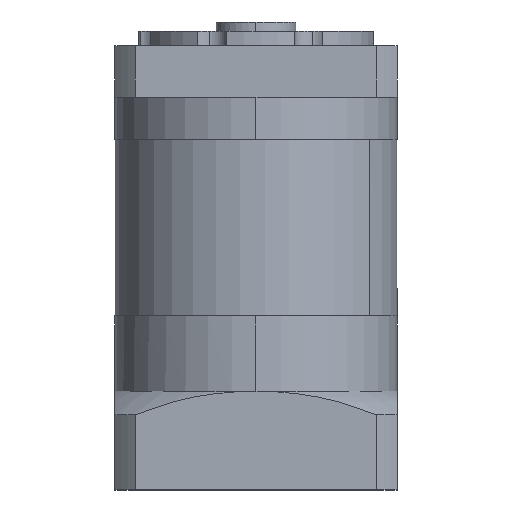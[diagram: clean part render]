
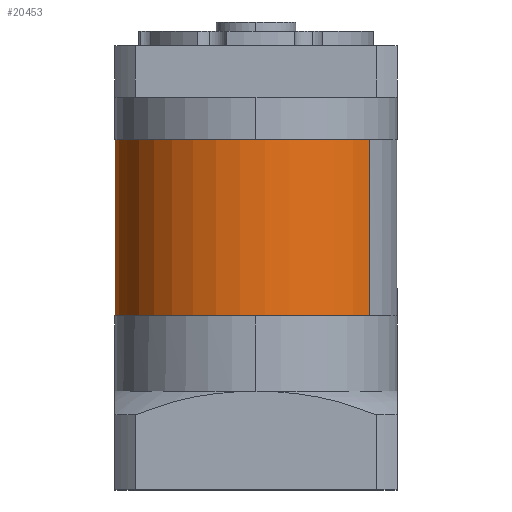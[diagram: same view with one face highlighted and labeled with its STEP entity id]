
A CAD part, left-side view. The second image highlights one B-rep face of the part: STEP entity #20453.
In plain terms, the highlighted cylindrical face has radius 30 mm (diameter 60 mm), a partial arc.
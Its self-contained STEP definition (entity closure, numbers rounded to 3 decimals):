
#131 = VECTOR ( 'NONE', #31612, 1000. ) ;
#493 = CIRCLE ( 'NONE', #7193, 30. ) ;
#990 = CARTESIAN_POINT ( 'NONE',  ( 0., 30., 18.75 ) ) ;
#2774 = EDGE_CURVE ( 'NONE', #22712, #42468, #45684, .T. ) ;
#3163 = EDGE_LOOP ( 'NONE', ( #16174, #28474, #42961, #25941 ) ) ;
#3254 = CARTESIAN_POINT ( 'NONE',  ( 0., 0., -18.75 ) ) ;
#4114 = VERTEX_POINT ( 'NONE', #21600 ) ;
#5207 = VERTEX_POINT ( 'NONE', #990 ) ;
#5562 = CARTESIAN_POINT ( 'NONE',  ( 0., -30., 18.75 ) ) ;
#6873 = DIRECTION ( 'NONE',  ( 0., 1., 0. ) ) ;
#7193 = AXIS2_PLACEMENT_3D ( 'NONE', #3254, #28508, #6873 ) ;
#13271 = LINE ( 'NONE', #42649, #40774 ) ;
#13694 = DIRECTION ( 'NONE',  ( 0., 0., -1. ) ) ;
#16174 = ORIENTED_EDGE ( 'NONE', *, *, #2774, .F. ) ;
#17569 = DIRECTION ( 'NONE',  ( 0., 0., -1. ) ) ;
#20080 = FACE_OUTER_BOUND ( 'NONE', #3163, .T. ) ;
#20453 = ADVANCED_FACE ( 'NONE', ( #20080 ), #38026, .T. ) ;
#20847 = CIRCLE ( 'NONE', #39407, 30. ) ;
#21600 = CARTESIAN_POINT ( 'NONE',  ( 0., 30., -18.75 ) ) ;
#22712 = VERTEX_POINT ( 'NONE', #5562 ) ;
#25402 = AXIS2_PLACEMENT_3D ( 'NONE', #31196, #45523, #27612 ) ;
#25941 = ORIENTED_EDGE ( 'NONE', *, *, #46352, .T. ) ;
#27612 = DIRECTION ( 'NONE',  ( 0., 1., 0. ) ) ;
#28474 = ORIENTED_EDGE ( 'NONE', *, *, #46284, .T. ) ;
#28508 = DIRECTION ( 'NONE',  ( 0., 0., 1. ) ) ;
#28843 = EDGE_CURVE ( 'NONE', #5207, #4114, #13271, .T. ) ;
#31196 = CARTESIAN_POINT ( 'NONE',  ( 0., 0., 18.75 ) ) ;
#31373 = CARTESIAN_POINT ( 'NONE',  ( 0., -30., 18.75 ) ) ;
#31612 = DIRECTION ( 'NONE',  ( 0., 0., -1. ) ) ;
#35203 = CARTESIAN_POINT ( 'NONE',  ( 0., 0., 18.75 ) ) ;
#38026 = CYLINDRICAL_SURFACE ( 'NONE', #25402, 30. ) ;
#38777 = DIRECTION ( 'NONE',  ( 0., 1., 0. ) ) ;
#39407 = AXIS2_PLACEMENT_3D ( 'NONE', #35203, #13694, #38777 ) ;
#40774 = VECTOR ( 'NONE', #17569, 1000. ) ;
#42468 = VERTEX_POINT ( 'NONE', #43030 ) ;
#42649 = CARTESIAN_POINT ( 'NONE',  ( 0., 30., 18.75 ) ) ;
#42961 = ORIENTED_EDGE ( 'NONE', *, *, #28843, .T. ) ;
#43030 = CARTESIAN_POINT ( 'NONE',  ( 0., -30., -18.75 ) ) ;
#45523 = DIRECTION ( 'NONE',  ( 0., 0., -1. ) ) ;
#45684 = LINE ( 'NONE', #31373, #131 ) ;
#46284 = EDGE_CURVE ( 'NONE', #22712, #5207, #20847, .T. ) ;
#46352 = EDGE_CURVE ( 'NONE', #4114, #42468, #493, .T. ) ;
